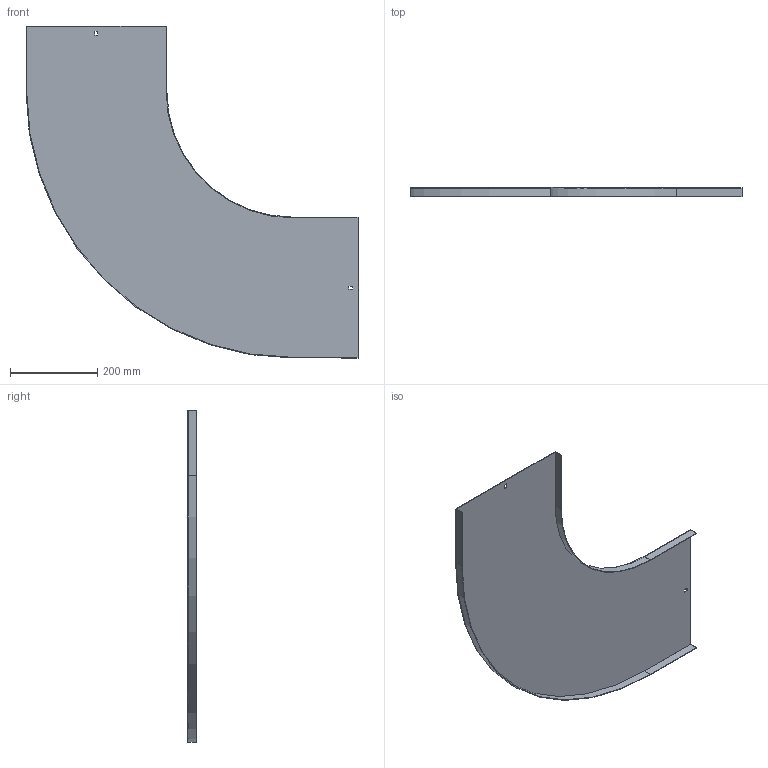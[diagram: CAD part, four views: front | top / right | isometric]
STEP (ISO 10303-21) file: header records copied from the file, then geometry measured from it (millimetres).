
FILE_DESCRIPTION (( 'STEP AP214' ), '1' );
FILE_NAME ('10N3P300.step', '2025-02-21T13:36:35', ( '' ), ( '' ), 'SwSTEP 2.0', 'SolidWorks 2023', '' );
FILE_SCHEMA (( 'AUTOMOTIVE_DESIGN' ));
Length unit declared in the file: millimetre
Products named in the file (1): 10N3P300
Bounding box: 761.5 x 20 x 761.5 mm (x, y, z)
Volume: 543528 mm3; surface area: 728897.6 mm2
Topology: 1 solids, 1 shells, 26 faces, 72 edges, 48 vertices
Faces by surface type: plane 22, cylinder 4
Entity records: 855 total; most frequent: CARTESIAN_POINT 147, ORIENTED_EDGE 144, DIRECTION 134, EDGE_CURVE 72, VECTOR 64, LINE 64, VERTEX_POINT 48, AXIS2_PLACEMENT_3D 35
